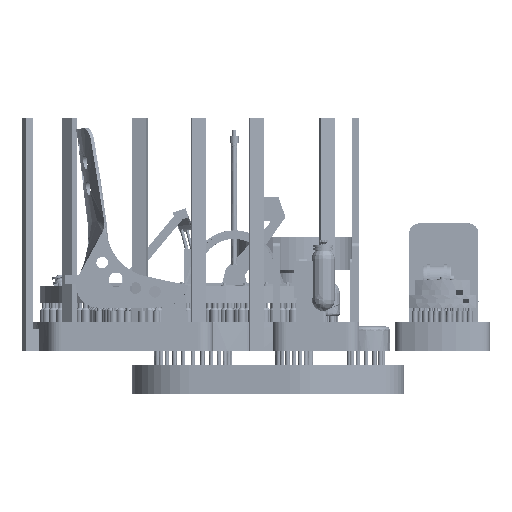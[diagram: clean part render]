
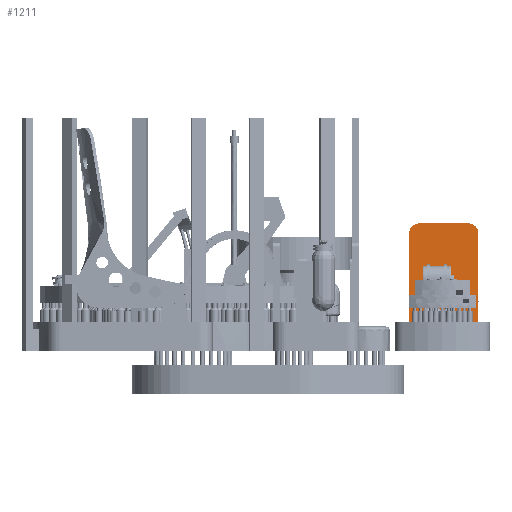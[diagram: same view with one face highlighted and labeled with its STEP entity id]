
A CAD part, left-side view. The second image highlights one B-rep face of the part: STEP entity #1211.
In plain terms, the highlighted planar face has unit normal (-1, 0, 0).
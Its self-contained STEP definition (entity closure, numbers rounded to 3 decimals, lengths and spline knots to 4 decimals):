
#1211=ADVANCED_FACE('',(#4579),#50767,.T.);
#4579=FACE_OUTER_BOUND('',#8100,.T.);
#8100=EDGE_LOOP('',(#13321,#13322,#13323,#13324,#13325,#13326));
#13321=ORIENTED_EDGE('',*,*,#29404,.T.);
#13322=ORIENTED_EDGE('',*,*,#29396,.T.);
#13323=ORIENTED_EDGE('',*,*,#29390,.F.);
#13324=ORIENTED_EDGE('',*,*,#29398,.T.);
#13325=ORIENTED_EDGE('',*,*,#29406,.F.);
#13326=ORIENTED_EDGE('',*,*,#29400,.F.);
#29390=EDGE_CURVE('',#45986,#45985,#37419,.T.);
#29396=EDGE_CURVE('',#45980,#45985,#41646,.T.);
#29398=EDGE_CURVE('',#45986,#45984,#41648,.T.);
#29400=EDGE_CURVE('',#45989,#45990,#37425,.T.);
#29404=EDGE_CURVE('',#45989,#45980,#37429,.T.);
#29406=EDGE_CURVE('',#45990,#45984,#37431,.T.);
#37419=B_SPLINE_CURVE_WITH_KNOTS('',1,(#64691,#64692),.UNSPECIFIED.,.F.,
 .F.,(2,2),(6.5,9.9),.UNSPECIFIED.);
#37425=B_SPLINE_CURVE_WITH_KNOTS('',1,(#64715,#64716),.UNSPECIFIED.,.F.,
 .F.,(2,2),(0.5,5.3),.UNSPECIFIED.);
#37429=B_SPLINE_CURVE_WITH_KNOTS('',1,(#64723,#64724),.UNSPECIFIED.,.F.,
 .F.,(2,2),(0.5109,3.6424),.UNSPECIFIED.);
#37431=B_SPLINE_CURVE_WITH_KNOTS('',1,(#64727,#64728),.UNSPECIFIED.,.F.,
 .F.,(2,2),(0.5109,3.6424),.UNSPECIFIED.);
#41646=(
BOUNDED_CURVE()
B_SPLINE_CURVE(2,(#64704,#64705,#64706),.UNSPECIFIED.,.F.,.F.)
B_SPLINE_CURVE_WITH_KNOTS((3,3),(0.,1.),.UNSPECIFIED.)
CURVE()
GEOMETRIC_REPRESENTATION_ITEM()
RATIONAL_B_SPLINE_CURVE((1.,0.707,1.))
REPRESENTATION_ITEM('')
);
#41648=(
BOUNDED_CURVE()
B_SPLINE_CURVE(2,(#64710,#64711,#64712),.UNSPECIFIED.,.F.,.F.)
B_SPLINE_CURVE_WITH_KNOTS((3,3),(-1.,0.),.UNSPECIFIED.)
CURVE()
GEOMETRIC_REPRESENTATION_ITEM()
RATIONAL_B_SPLINE_CURVE((1.,0.707,1.))
REPRESENTATION_ITEM('')
);
#45980=VERTEX_POINT('',#63256);
#45984=VERTEX_POINT('',#63260);
#45985=VERTEX_POINT('',#63261);
#45986=VERTEX_POINT('',#63262);
#45989=VERTEX_POINT('',#63265);
#45990=VERTEX_POINT('',#63266);
#50767=PLANE('',#54044);
#54044=AXIS2_PLACEMENT_3D('',#59782,#54789,$);
#54789=DIRECTION('',(-1.,0.,0.));
#59782=CARTESIAN_POINT('',(-8.,-6.5,1.));
#63256=CARTESIAN_POINT('',(-8.,-11.3,8.13));
#63260=CARTESIAN_POINT('',(-8.,-6.5,8.13));
#63261=CARTESIAN_POINT('',(-8.,-10.6,8.83));
#63262=CARTESIAN_POINT('',(-8.,-7.2,8.83));
#63265=CARTESIAN_POINT('',(-8.,-11.3,2.));
#63266=CARTESIAN_POINT('',(-8.,-6.5,2.));
#64691=CARTESIAN_POINT('',(-8.,-7.2,8.83));
#64692=CARTESIAN_POINT('',(-8.,-10.6,8.83));
#64704=CARTESIAN_POINT('',(-8.,-11.3,8.13));
#64705=CARTESIAN_POINT('',(-8.,-11.3,8.83));
#64706=CARTESIAN_POINT('',(-8.,-10.6,8.83));
#64710=CARTESIAN_POINT('',(-8.,-7.2,8.83));
#64711=CARTESIAN_POINT('',(-8.,-6.5,8.83));
#64712=CARTESIAN_POINT('',(-8.,-6.5,8.13));
#64715=CARTESIAN_POINT('',(-8.,-11.3,2.));
#64716=CARTESIAN_POINT('',(-8.,-6.5,2.));
#64723=CARTESIAN_POINT('',(-8.,-11.3,2.));
#64724=CARTESIAN_POINT('',(-8.,-11.3,8.13));
#64727=CARTESIAN_POINT('',(-8.,-6.5,2.));
#64728=CARTESIAN_POINT('',(-8.,-6.5,8.13));
